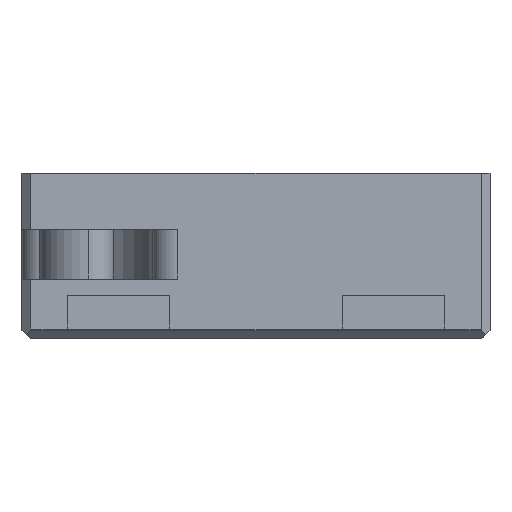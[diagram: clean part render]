
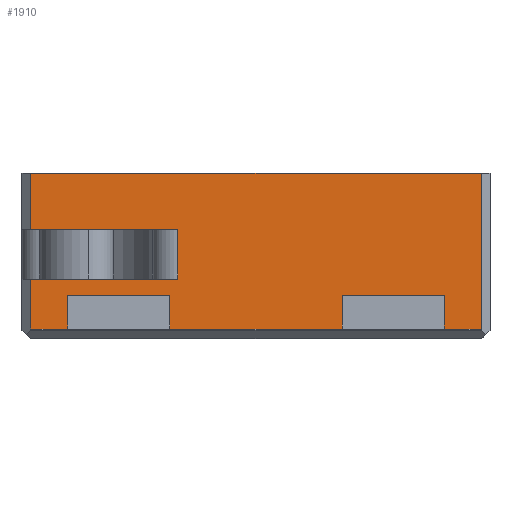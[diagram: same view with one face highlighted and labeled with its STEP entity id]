
A CAD part, front view. The second image highlights one B-rep face of the part: STEP entity #1910.
In plain terms, the highlighted planar face has unit normal (0, -1, 0).
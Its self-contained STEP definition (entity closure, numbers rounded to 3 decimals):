
#849 = VERTEX_POINT('',#850);
#850 = CARTESIAN_POINT('',(18.05,-56.2,10.));
#866 = VERTEX_POINT('',#867);
#867 = CARTESIAN_POINT('',(18.05,-56.2,-2.5));
#873 = EDGE_CURVE('',#849,#866,#874,.T.);
#874 = LINE('',#875,#876);
#875 = CARTESIAN_POINT('',(18.05,-56.2,70.54));
#876 = VECTOR('',#877,1.);
#877 = DIRECTION('',(0.,0.,-1.));
#914 = VERTEX_POINT('',#915);
#915 = CARTESIAN_POINT('',(-18.05,-56.2,1.5));
#921 = EDGE_CURVE('',#914,#922,#924,.T.);
#922 = VERTEX_POINT('',#923);
#923 = CARTESIAN_POINT('',(-18.05,-56.2,-2.5));
#924 = LINE('',#925,#926);
#925 = CARTESIAN_POINT('',(-18.05,-56.2,70.54));
#926 = VECTOR('',#927,1.);
#927 = DIRECTION('',(0.,0.,-1.));
#980 = EDGE_CURVE('',#981,#983,#985,.T.);
#981 = VERTEX_POINT('',#982);
#982 = CARTESIAN_POINT('',(-6.9,-56.2,-2.5));
#983 = VERTEX_POINT('',#984);
#984 = CARTESIAN_POINT('',(6.9,-56.2,-2.5));
#985 = LINE('',#986,#987);
#986 = CARTESIAN_POINT('',(-18.75,-56.2,-2.5));
#987 = VECTOR('',#988,1.);
#988 = DIRECTION('',(1.,0.,0.));
#991 = VERTEX_POINT('',#992);
#992 = CARTESIAN_POINT('',(15.1,-56.2,-2.5));
#998 = EDGE_CURVE('',#991,#866,#999,.T.);
#999 = LINE('',#1000,#1001);
#1000 = CARTESIAN_POINT('',(-18.75,-56.2,-2.5));
#1001 = VECTOR('',#1002,1.);
#1002 = DIRECTION('',(1.,0.,0.));
#1007 = EDGE_CURVE('',#922,#1008,#1010,.T.);
#1008 = VERTEX_POINT('',#1009);
#1009 = CARTESIAN_POINT('',(-15.1,-56.2,-2.5));
#1010 = LINE('',#1011,#1012);
#1011 = CARTESIAN_POINT('',(-18.75,-56.2,-2.5));
#1012 = VECTOR('',#1013,1.);
#1013 = DIRECTION('',(1.,0.,0.));
#1106 = VERTEX_POINT('',#1107);
#1107 = CARTESIAN_POINT('',(-18.05,-56.2,10.));
#1113 = EDGE_CURVE('',#1106,#849,#1114,.T.);
#1114 = LINE('',#1115,#1116);
#1115 = CARTESIAN_POINT('',(-18.75,-56.2,10.));
#1116 = VECTOR('',#1117,1.);
#1117 = DIRECTION('',(1.,0.,0.));
#1910 = ADVANCED_FACE('',(#1911),#1993,.F.);
#1911 = FACE_BOUND('',#1912,.F.);
#1912 = EDGE_LOOP('',(#1913,#1914,#1915,#1923,#1931,#1939,#1945,#1946,
    #1947,#1948,#1956,#1964,#1970,#1971,#1979,#1987));
#1913 = ORIENTED_EDGE('',*,*,#1007,.F.);
#1914 = ORIENTED_EDGE('',*,*,#921,.F.);
#1915 = ORIENTED_EDGE('',*,*,#1916,.F.);
#1916 = EDGE_CURVE('',#1917,#914,#1919,.T.);
#1917 = VERTEX_POINT('',#1918);
#1918 = CARTESIAN_POINT('',(-6.286,-56.2,1.5));
#1919 = LINE('',#1920,#1921);
#1920 = CARTESIAN_POINT('',(-6.286,-56.2,1.5));
#1921 = VECTOR('',#1922,1.);
#1922 = DIRECTION('',(-1.,0.,-0.));
#1923 = ORIENTED_EDGE('',*,*,#1924,.T.);
#1924 = EDGE_CURVE('',#1917,#1925,#1927,.T.);
#1925 = VERTEX_POINT('',#1926);
#1926 = CARTESIAN_POINT('',(-6.286,-56.2,5.5));
#1927 = LINE('',#1928,#1929);
#1928 = CARTESIAN_POINT('',(-6.286,-56.2,1.5));
#1929 = VECTOR('',#1930,1.);
#1930 = DIRECTION('',(0.,0.,1.));
#1931 = ORIENTED_EDGE('',*,*,#1932,.T.);
#1932 = EDGE_CURVE('',#1925,#1933,#1935,.T.);
#1933 = VERTEX_POINT('',#1934);
#1934 = CARTESIAN_POINT('',(-18.05,-56.2,5.5));
#1935 = LINE('',#1936,#1937);
#1936 = CARTESIAN_POINT('',(-6.286,-56.2,5.5));
#1937 = VECTOR('',#1938,1.);
#1938 = DIRECTION('',(-1.,0.,-0.));
#1939 = ORIENTED_EDGE('',*,*,#1940,.F.);
#1940 = EDGE_CURVE('',#1106,#1933,#1941,.T.);
#1941 = LINE('',#1942,#1943);
#1942 = CARTESIAN_POINT('',(-18.05,-56.2,70.54));
#1943 = VECTOR('',#1944,1.);
#1944 = DIRECTION('',(0.,0.,-1.));
#1945 = ORIENTED_EDGE('',*,*,#1113,.T.);
#1946 = ORIENTED_EDGE('',*,*,#873,.T.);
#1947 = ORIENTED_EDGE('',*,*,#998,.F.);
#1948 = ORIENTED_EDGE('',*,*,#1949,.T.);
#1949 = EDGE_CURVE('',#991,#1950,#1952,.T.);
#1950 = VERTEX_POINT('',#1951);
#1951 = CARTESIAN_POINT('',(15.1,-56.2,0.15));
#1952 = LINE('',#1953,#1954);
#1953 = CARTESIAN_POINT('',(15.1,-56.2,-2.5));
#1954 = VECTOR('',#1955,1.);
#1955 = DIRECTION('',(0.,0.,1.));
#1956 = ORIENTED_EDGE('',*,*,#1957,.T.);
#1957 = EDGE_CURVE('',#1950,#1958,#1960,.T.);
#1958 = VERTEX_POINT('',#1959);
#1959 = CARTESIAN_POINT('',(6.9,-56.2,0.15));
#1960 = LINE('',#1961,#1962);
#1961 = CARTESIAN_POINT('',(15.1,-56.2,0.15));
#1962 = VECTOR('',#1963,1.);
#1963 = DIRECTION('',(-1.,0.,0.));
#1964 = ORIENTED_EDGE('',*,*,#1965,.T.);
#1965 = EDGE_CURVE('',#1958,#983,#1966,.T.);
#1966 = LINE('',#1967,#1968);
#1967 = CARTESIAN_POINT('',(6.9,-56.2,0.15));
#1968 = VECTOR('',#1969,1.);
#1969 = DIRECTION('',(-0.,0.,-1.));
#1970 = ORIENTED_EDGE('',*,*,#980,.F.);
#1971 = ORIENTED_EDGE('',*,*,#1972,.T.);
#1972 = EDGE_CURVE('',#981,#1973,#1975,.T.);
#1973 = VERTEX_POINT('',#1974);
#1974 = CARTESIAN_POINT('',(-6.9,-56.2,0.15));
#1975 = LINE('',#1976,#1977);
#1976 = CARTESIAN_POINT('',(-6.9,-56.2,-2.5));
#1977 = VECTOR('',#1978,1.);
#1978 = DIRECTION('',(0.,0.,1.));
#1979 = ORIENTED_EDGE('',*,*,#1980,.T.);
#1980 = EDGE_CURVE('',#1973,#1981,#1983,.T.);
#1981 = VERTEX_POINT('',#1982);
#1982 = CARTESIAN_POINT('',(-15.1,-56.2,0.15));
#1983 = LINE('',#1984,#1985);
#1984 = CARTESIAN_POINT('',(-6.9,-56.2,0.15));
#1985 = VECTOR('',#1986,1.);
#1986 = DIRECTION('',(-1.,0.,0.));
#1987 = ORIENTED_EDGE('',*,*,#1988,.T.);
#1988 = EDGE_CURVE('',#1981,#1008,#1989,.T.);
#1989 = LINE('',#1990,#1991);
#1990 = CARTESIAN_POINT('',(-15.1,-56.2,0.15));
#1991 = VECTOR('',#1992,1.);
#1992 = DIRECTION('',(-0.,0.,-1.));
#1993 = PLANE('',#1994);
#1994 = AXIS2_PLACEMENT_3D('',#1995,#1996,#1997);
#1995 = CARTESIAN_POINT('',(-18.75,-56.2,-2.5));
#1996 = DIRECTION('',(0.,1.,0.));
#1997 = DIRECTION('',(1.,0.,0.));
